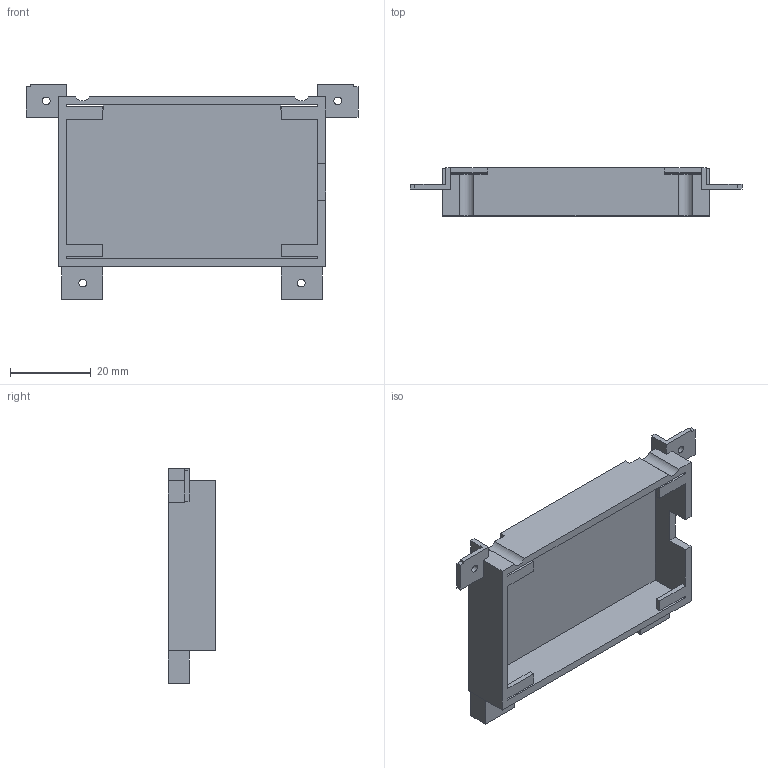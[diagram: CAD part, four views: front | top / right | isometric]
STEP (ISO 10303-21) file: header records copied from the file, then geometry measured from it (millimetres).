
FILE_DESCRIPTION(('Open CASCADE Model'),'2;1');
FILE_NAME('05_BATTERY_CRADLE','2026-09-06T11:49:22',('Author'),( 'Open CASCADE'),'Open CASCADE STEP processor 7.8','build123d', 'Unknown');
FILE_SCHEMA(('AUTOMOTIVE_DESIGN { 1 0 10303 214 1 1 1 1 }'));
Length unit declared in the file: millimetre
Products named in the file (1): 05_BATTERY_CRADLE
Bounding box: 82 x 11.8 x 53 mm (x, y, z)
Volume: 7663.8 mm3; surface area: 11332.3 mm2
Topology: 1 solids, 1 shells, 109 faces, 328 edges, 218 vertices
Faces by surface type: plane 101, cylinder 8
Full cylindrical faces by diameter (mm): 1.9 x4
Entity records: 7814 total; most frequent: CARTESIAN_POINT 1562, DIRECTION 1050, LINE 798, VECTOR 798, ORIENTED_EDGE 656, PCURVE 656, DEFINITIONAL_REPRESENTATION 656, EDGE_CURVE 328
